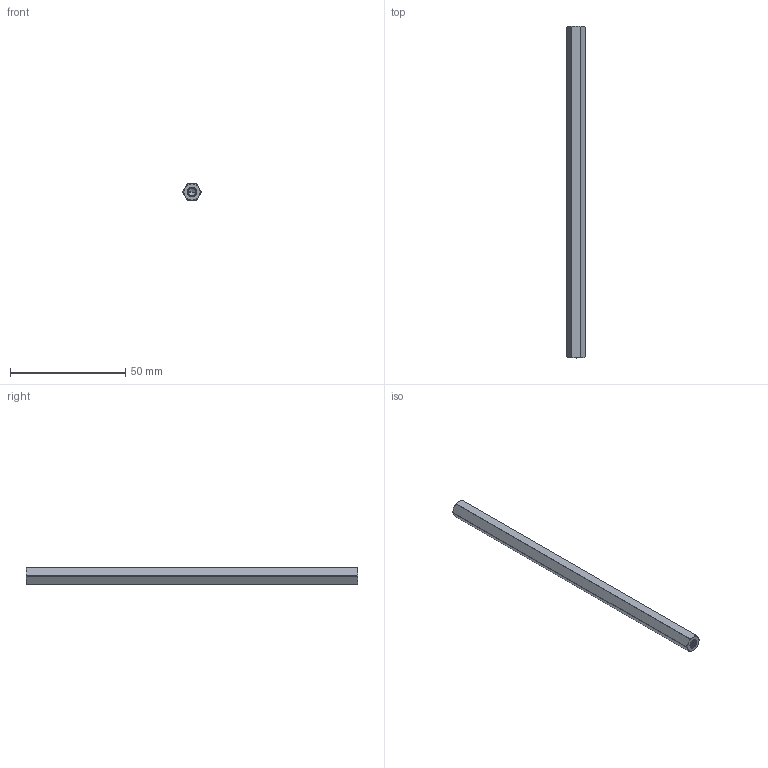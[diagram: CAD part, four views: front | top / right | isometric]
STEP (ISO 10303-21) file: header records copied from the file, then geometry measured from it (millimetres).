
FILE_DESCRIPTION (( 'STEP AP203' ), '1' );
FILE_NAME ('1516-4008-1440.STEP', '2022-08-26T15:05:38', ( '' ), ( '' ), 'SwSTEP 2.0', 'SolidWorks 2016', '' );
FILE_SCHEMA (( 'CONFIG_CONTROL_DESIGN' ));
Length unit declared in the file: millimetre
Products named in the file (1): 1516-4008-1440
Bounding box: 8 x 144 x 7 mm (x, y, z)
Volume: 5891.4 mm3; surface area: 3902.1 mm2
Topology: 1 solids, 1 shells, 148 faces, 422 edges, 274 vertices
Faces by surface type: cylinder 114, cone 20, plane 10, bspline 4
Entity records: 10327 total; most frequent: CARTESIAN_POINT 7087, ORIENTED_EDGE 836, DIRECTION 512, EDGE_CURVE 418, VERTEX_POINT 274, AXIS2_PLACEMENT_3D 193, EDGE_LOOP 150, ADVANCED_FACE 148
